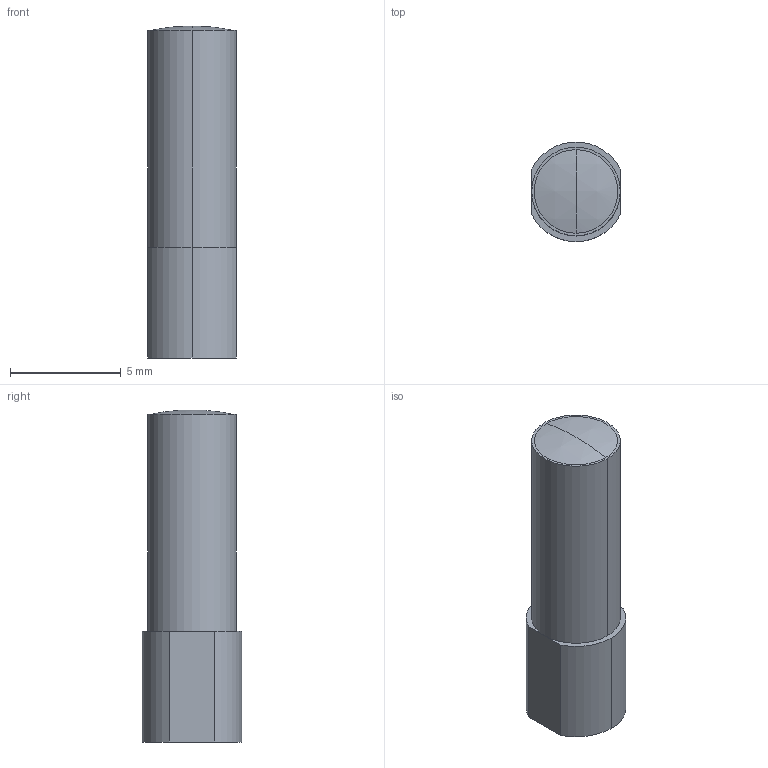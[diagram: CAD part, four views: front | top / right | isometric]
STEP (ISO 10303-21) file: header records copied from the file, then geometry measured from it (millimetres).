
FILE_DESCRIPTION (( 'STEP AP203' ), '1' );
FILE_NAME ('FX-MR3.STEP', '2005-09-08T02:47:42', ( '' ), ( '' ), 'SwSTEP 2.0', 'SolidWorks 2004073', '' );
FILE_SCHEMA (( 'CONFIG_CONTROL_DESIGN' ));
Length unit declared in the file: millimetre
Products named in the file (1): FX-MR3
Bounding box: 4 x 4.49 x 15 mm (x, y, z)
Volume: 157.9 mm3; surface area: 280.1 mm2
Topology: 1 solids, 1 shells, 16 faces, 35 edges, 23 vertices
Faces by surface type: plane 7, cylinder 7, sphere 2
Entity records: 528 total; most frequent: DIRECTION 89, CARTESIAN_POINT 75, ORIENTED_EDGE 70, AXIS2_PLACEMENT_3D 37, EDGE_CURVE 35, VERTEX_POINT 23, CIRCLE 20, EDGE_LOOP 18
